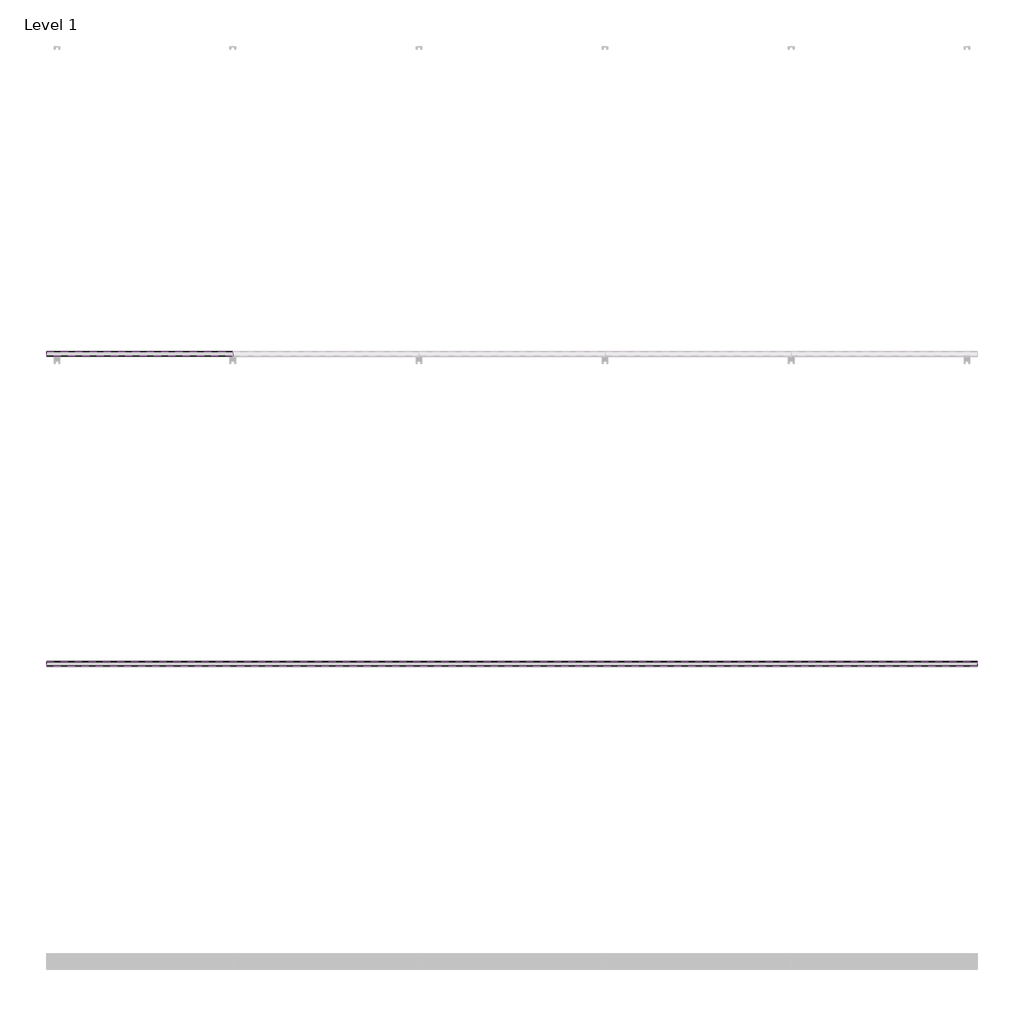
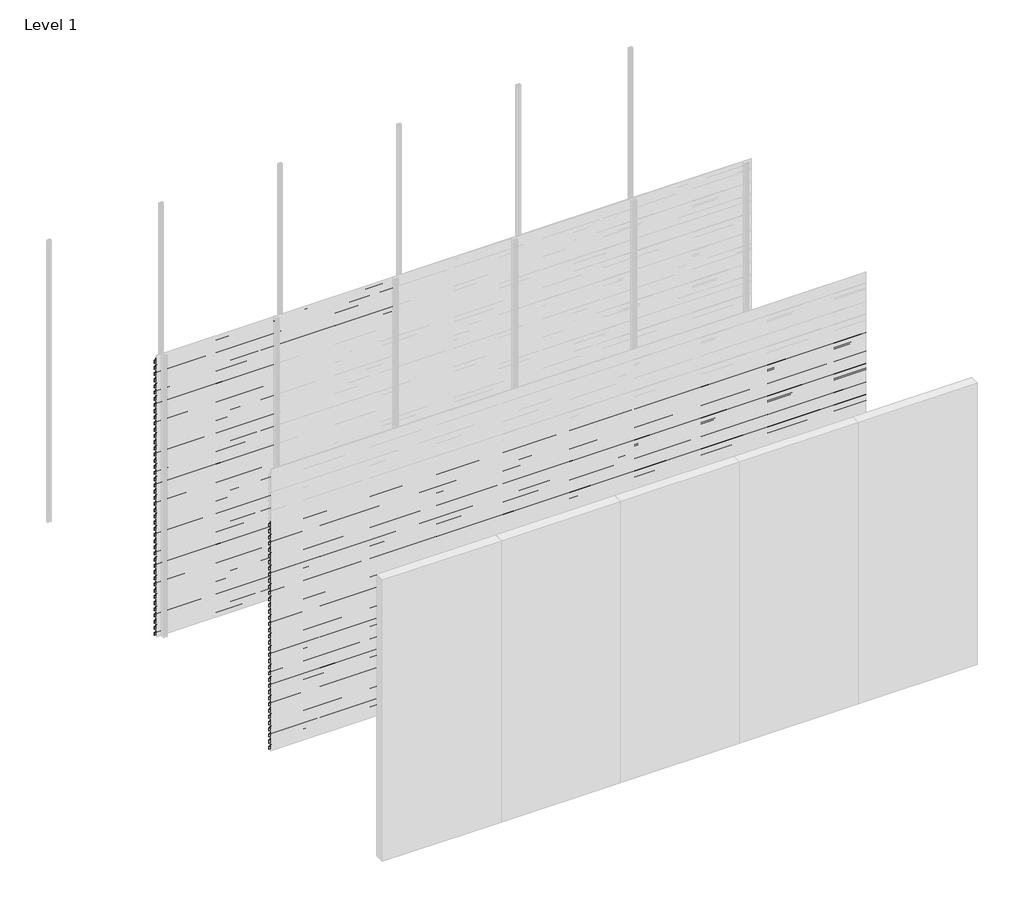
# One storey, part 25 of 33: 88 proxies.
"""IFC4 building model written with IfcOpenShell, lengths in millimetres."""

from ifc_helpers import new_model, si_unit, frame, origin, place, context, project, spatial, polyline, outline, extrude, element, save

model = new_model("IFC4")

# Units and contexts
model_context = context("Model", 3, world=origin())
ifc_project = project(units=[si_unit("LENGTHUNIT", "METRE", prefix="MILLI")], contexts=[model_context])

# Site, building, storey
site = spatial("IfcSite", under=ifc_project)
building = spatial("IfcBuilding", under=site)
storey = spatial("IfcBuildingStorey", under=building, Name="Level 1", Elevation=0.0)

# Proxies
placement = place(None, origin())
element("IfcBuildingElementProxy", 1, Name="Wall Sweeps", at=placement, inside=storey, context=model_context, shape_type="SweptSolid", body=[
    extrude(outline(polyline([(-11967.0, 2930.0), (-11967.0, 2897.0), (-11968.25, 2897.7216933), (-11968.25, 2929.2872415), (-11998.0, 2950.0588647), (-11998.0, 2970.0), (-11996.75, 2970.0), (-11996.75, 2950.7716232), (-11967.0, 2930.0)])), frame((0.0, 0.0, 0.0), z_axis=(1.0, 0.0, 0.0), x_axis=(0.0, 1.0, 0.0)), (0.0, 0.0, 1.0), 1200.0),
])
element("IfcBuildingElementProxy", 2, Name="Wall Sweeps", at=placement, inside=storey, context=model_context, shape_type="SweptSolid", body=[
    extrude(outline(polyline([(-11967.0, 2864.0), (-11967.0, 2831.0), (-11968.25, 2831.7216933), (-11968.25, 2863.2872415), (-11998.0, 2884.0588647), (-11998.0, 2904.0), (-11996.75, 2904.0), (-11996.75, 2884.7716232), (-11967.0, 2864.0)])), frame((0.0, 0.0, 0.0), z_axis=(1.0, 0.0, 0.0), x_axis=(0.0, 1.0, 0.0)), (0.0, 0.0, 1.0), 1200.0),
])
element("IfcBuildingElementProxy", 3, Name="Wall Sweeps", at=placement, inside=storey, context=model_context, shape_type="SweptSolid", body=[
    extrude(outline(polyline([(-11967.0, 2798.0), (-11967.0, 2765.0), (-11968.25, 2765.7216933), (-11968.25, 2797.2872415), (-11998.0, 2818.0588647), (-11998.0, 2838.0), (-11996.75, 2838.0), (-11996.75, 2818.7716232), (-11967.0, 2798.0)])), frame((0.0, 0.0, 0.0), z_axis=(1.0, 0.0, 0.0), x_axis=(0.0, 1.0, 0.0)), (0.0, 0.0, 1.0), 1200.0),
])
element("IfcBuildingElementProxy", 4, Name="Wall Sweeps", at=placement, inside=storey, context=model_context, shape_type="SweptSolid", body=[
    extrude(outline(polyline([(-11967.0, 2732.0), (-11967.0, 2699.0), (-11968.25, 2699.7216933), (-11968.25, 2731.2872415), (-11998.0, 2752.0588647), (-11998.0, 2772.0), (-11996.75, 2772.0), (-11996.75, 2752.7716232), (-11967.0, 2732.0)])), frame((0.0, 0.0, 0.0), z_axis=(1.0, 0.0, 0.0), x_axis=(0.0, 1.0, 0.0)), (0.0, 0.0, 1.0), 1200.0),
])
element("IfcBuildingElementProxy", 5, Name="Wall Sweeps", at=placement, inside=storey, context=model_context, shape_type="SweptSolid", body=[
    extrude(outline(polyline([(-11967.0, 2666.0), (-11967.0, 2633.0), (-11968.25, 2633.7216933), (-11968.25, 2665.2872415), (-11998.0, 2686.0588647), (-11998.0, 2706.0), (-11996.75, 2706.0), (-11996.75, 2686.7716232), (-11967.0, 2666.0)])), frame((0.0, 0.0, 0.0), z_axis=(1.0, 0.0, 0.0), x_axis=(0.0, 1.0, 0.0)), (0.0, 0.0, 1.0), 1200.0),
])
element("IfcBuildingElementProxy", 6, Name="Wall Sweeps", at=placement, inside=storey, context=model_context, shape_type="SweptSolid", body=[
    extrude(outline(polyline([(-11967.0, 2600.0), (-11967.0, 2567.0), (-11968.25, 2567.7216933), (-11968.25, 2599.2872415), (-11998.0, 2620.0588647), (-11998.0, 2640.0), (-11996.75, 2640.0), (-11996.75, 2620.7716232), (-11967.0, 2600.0)])), frame((0.0, 0.0, 0.0), z_axis=(1.0, 0.0, 0.0), x_axis=(0.0, 1.0, 0.0)), (0.0, 0.0, 1.0), 1200.0),
])
element("IfcBuildingElementProxy", 7, Name="Wall Sweeps", at=placement, inside=storey, context=model_context, shape_type="SweptSolid", body=[
    extrude(outline(polyline([(-11967.0, 2534.0), (-11967.0, 2501.0), (-11968.25, 2501.7216933), (-11968.25, 2533.2872415), (-11998.0, 2554.0588647), (-11998.0, 2574.0), (-11996.75, 2574.0), (-11996.75, 2554.7716232), (-11967.0, 2534.0)])), frame((0.0, 0.0, 0.0), z_axis=(1.0, 0.0, 0.0), x_axis=(0.0, 1.0, 0.0)), (0.0, 0.0, 1.0), 1200.0),
])
element("IfcBuildingElementProxy", 8, Name="Wall Sweeps", at=placement, inside=storey, context=model_context, shape_type="SweptSolid", body=[
    extrude(outline(polyline([(-11967.0, 2468.0), (-11967.0, 2435.0), (-11968.25, 2435.7216933), (-11968.25, 2467.2872415), (-11998.0, 2488.0588647), (-11998.0, 2508.0), (-11996.75, 2508.0), (-11996.75, 2488.7716232), (-11967.0, 2468.0)])), frame((0.0, 0.0, 0.0), z_axis=(1.0, 0.0, 0.0), x_axis=(0.0, 1.0, 0.0)), (0.0, 0.0, 1.0), 1200.0),
])
element("IfcBuildingElementProxy", 9, Name="Wall Sweeps", at=placement, inside=storey, context=model_context, shape_type="SweptSolid", body=[
    extrude(outline(polyline([(-11967.0, 2402.0), (-11967.0, 2369.0), (-11968.25, 2369.7216933), (-11968.25, 2401.2872415), (-11998.0, 2422.0588647), (-11998.0, 2442.0), (-11996.75, 2442.0), (-11996.75, 2422.7716232), (-11967.0, 2402.0)])), frame((0.0, 0.0, 0.0), z_axis=(1.0, 0.0, 0.0), x_axis=(0.0, 1.0, 0.0)), (0.0, 0.0, 1.0), 1200.0),
])
element("IfcBuildingElementProxy", 10, Name="Wall Sweeps", at=placement, inside=storey, context=model_context, shape_type="SweptSolid", body=[
    extrude(outline(polyline([(-11967.0, 2336.0), (-11967.0, 2303.0), (-11968.25, 2303.7216933), (-11968.25, 2335.2872415), (-11998.0, 2356.0588647), (-11998.0, 2376.0), (-11996.75, 2376.0), (-11996.75, 2356.7716232), (-11967.0, 2336.0)])), frame((0.0, 0.0, 0.0), z_axis=(1.0, 0.0, 0.0), x_axis=(0.0, 1.0, 0.0)), (0.0, 0.0, 1.0), 1200.0),
])
element("IfcBuildingElementProxy", 11, Name="Wall Sweeps", at=placement, inside=storey, context=model_context, shape_type="SweptSolid", body=[
    extrude(outline(polyline([(-11967.0, 2270.0), (-11967.0, 2237.0), (-11968.25, 2237.7216933), (-11968.25, 2269.2872415), (-11998.0, 2290.0588647), (-11998.0, 2310.0), (-11996.75, 2310.0), (-11996.75, 2290.7716232), (-11967.0, 2270.0)])), frame((0.0, 0.0, 0.0), z_axis=(1.0, 0.0, 0.0), x_axis=(0.0, 1.0, 0.0)), (0.0, 0.0, 1.0), 1200.0),
])
element("IfcBuildingElementProxy", 12, Name="Wall Sweeps", at=placement, inside=storey, context=model_context, shape_type="SweptSolid", body=[
    extrude(outline(polyline([(-11967.0, 2204.0), (-11967.0, 2171.0), (-11968.25, 2171.7216933), (-11968.25, 2203.2872415), (-11998.0, 2224.0588647), (-11998.0, 2244.0), (-11996.75, 2244.0), (-11996.75, 2224.7716232), (-11967.0, 2204.0)])), frame((0.0, 0.0, 0.0), z_axis=(1.0, 0.0, 0.0), x_axis=(0.0, 1.0, 0.0)), (0.0, 0.0, 1.0), 1200.0),
])
element("IfcBuildingElementProxy", 13, Name="Wall Sweeps", at=placement, inside=storey, context=model_context, shape_type="SweptSolid", body=[
    extrude(outline(polyline([(-11967.0, 2138.0), (-11967.0, 2105.0), (-11968.25, 2105.7216933), (-11968.25, 2137.2872415), (-11998.0, 2158.0588647), (-11998.0, 2178.0), (-11996.75, 2178.0), (-11996.75, 2158.7716232), (-11967.0, 2138.0)])), frame((0.0, 0.0, 0.0), z_axis=(1.0, 0.0, 0.0), x_axis=(0.0, 1.0, 0.0)), (0.0, 0.0, 1.0), 1200.0),
])
element("IfcBuildingElementProxy", 14, Name="Wall Sweeps", at=placement, inside=storey, context=model_context, shape_type="SweptSolid", body=[
    extrude(outline(polyline([(-11967.0, 2072.0), (-11967.0, 2039.0), (-11968.25, 2039.7216933), (-11968.25, 2071.2872415), (-11998.0, 2092.0588647), (-11998.0, 2112.0), (-11996.75, 2112.0), (-11996.75, 2092.7716232), (-11967.0, 2072.0)])), frame((0.0, 0.0, 0.0), z_axis=(1.0, 0.0, 0.0), x_axis=(0.0, 1.0, 0.0)), (0.0, 0.0, 1.0), 1200.0),
])
element("IfcBuildingElementProxy", 15, Name="Wall Sweeps", at=placement, inside=storey, context=model_context, shape_type="SweptSolid", body=[
    extrude(outline(polyline([(-11967.0, 2006.0), (-11967.0, 1973.0), (-11968.25, 1973.7216933), (-11968.25, 2005.2872415), (-11998.0, 2026.0588647), (-11998.0, 2046.0), (-11996.75, 2046.0), (-11996.75, 2026.7716232), (-11967.0, 2006.0)])), frame((0.0, 0.0, 0.0), z_axis=(1.0, 0.0, 0.0), x_axis=(0.0, 1.0, 0.0)), (0.0, 0.0, 1.0), 1200.0),
])
element("IfcBuildingElementProxy", 16, Name="Wall Sweeps", at=placement, inside=storey, context=model_context, shape_type="SweptSolid", body=[
    extrude(outline(polyline([(-11967.0, 1940.0), (-11967.0, 1907.0), (-11968.25, 1907.7216933), (-11968.25, 1939.2872415), (-11998.0, 1960.0588647), (-11998.0, 1980.0), (-11996.75, 1980.0), (-11996.75, 1960.7716232), (-11967.0, 1940.0)])), frame((0.0, 0.0, 0.0), z_axis=(1.0, 0.0, 0.0), x_axis=(0.0, 1.0, 0.0)), (0.0, 0.0, 1.0), 1200.0),
])
element("IfcBuildingElementProxy", 17, Name="Wall Sweeps", at=placement, inside=storey, context=model_context, shape_type="SweptSolid", body=[
    extrude(outline(polyline([(-11967.0, 1874.0), (-11967.0, 1841.0), (-11968.25, 1841.7216933), (-11968.25, 1873.2872415), (-11998.0, 1894.0588647), (-11998.0, 1914.0), (-11996.75, 1914.0), (-11996.75, 1894.7716232), (-11967.0, 1874.0)])), frame((0.0, 0.0, 0.0), z_axis=(1.0, 0.0, 0.0), x_axis=(0.0, 1.0, 0.0)), (0.0, 0.0, 1.0), 1200.0),
])
element("IfcBuildingElementProxy", 18, Name="Wall Sweeps", at=placement, inside=storey, context=model_context, shape_type="SweptSolid", body=[
    extrude(outline(polyline([(-11967.0, 1808.0), (-11967.0, 1775.0), (-11968.25, 1775.7216933), (-11968.25, 1807.2872415), (-11998.0, 1828.0588647), (-11998.0, 1848.0), (-11996.75, 1848.0), (-11996.75, 1828.7716232), (-11967.0, 1808.0)])), frame((0.0, 0.0, 0.0), z_axis=(1.0, 0.0, 0.0), x_axis=(0.0, 1.0, 0.0)), (0.0, 0.0, 1.0), 1200.0),
])
element("IfcBuildingElementProxy", 19, Name="Wall Sweeps", at=placement, inside=storey, context=model_context, shape_type="SweptSolid", body=[
    extrude(outline(polyline([(-11967.0, 1742.0), (-11967.0, 1709.0), (-11968.25, 1709.7216933), (-11968.25, 1741.2872415), (-11998.0, 1762.0588647), (-11998.0, 1782.0), (-11996.75, 1782.0), (-11996.75, 1762.7716232), (-11967.0, 1742.0)])), frame((0.0, 0.0, 0.0), z_axis=(1.0, 0.0, 0.0), x_axis=(0.0, 1.0, 0.0)), (0.0, 0.0, 1.0), 1200.0),
])
element("IfcBuildingElementProxy", 20, Name="Wall Sweeps", at=placement, inside=storey, context=model_context, shape_type="SweptSolid", body=[
    extrude(outline(polyline([(-11967.0, 1676.0), (-11967.0, 1643.0), (-11968.25, 1643.7216933), (-11968.25, 1675.2872415), (-11998.0, 1696.0588647), (-11998.0, 1716.0), (-11996.75, 1716.0), (-11996.75, 1696.7716232), (-11967.0, 1676.0)])), frame((0.0, 0.0, 0.0), z_axis=(1.0, 0.0, 0.0), x_axis=(0.0, 1.0, 0.0)), (0.0, 0.0, 1.0), 1200.0),
])
element("IfcBuildingElementProxy", 21, Name="Wall Sweeps", at=placement, inside=storey, context=model_context, shape_type="SweptSolid", body=[
    extrude(outline(polyline([(-11967.0, 1610.0), (-11967.0, 1577.0), (-11968.25, 1577.7216933), (-11968.25, 1609.2872415), (-11998.0, 1630.0588647), (-11998.0, 1650.0), (-11996.75, 1650.0), (-11996.75, 1630.7716232), (-11967.0, 1610.0)])), frame((0.0, 0.0, 0.0), z_axis=(1.0, 0.0, 0.0), x_axis=(0.0, 1.0, 0.0)), (0.0, 0.0, 1.0), 1200.0),
])
element("IfcBuildingElementProxy", 22, Name="Wall Sweeps", at=placement, inside=storey, context=model_context, shape_type="SweptSolid", body=[
    extrude(outline(polyline([(-11967.0, 1544.0), (-11967.0, 1511.0), (-11968.25, 1511.7216933), (-11968.25, 1543.2872415), (-11998.0, 1564.0588647), (-11998.0, 1584.0), (-11996.75, 1584.0), (-11996.75, 1564.7716232), (-11967.0, 1544.0)])), frame((0.0, 0.0, 0.0), z_axis=(1.0, 0.0, 0.0), x_axis=(0.0, 1.0, 0.0)), (0.0, 0.0, 1.0), 1200.0),
])
element("IfcBuildingElementProxy", 23, Name="Wall Sweeps", at=placement, inside=storey, context=model_context, shape_type="SweptSolid", body=[
    extrude(outline(polyline([(-11967.0, 1478.0), (-11967.0, 1445.0), (-11968.25, 1445.7216933), (-11968.25, 1477.2872415), (-11998.0, 1498.0588647), (-11998.0, 1518.0), (-11996.75, 1518.0), (-11996.75, 1498.7716232), (-11967.0, 1478.0)])), frame((0.0, 0.0, 0.0), z_axis=(1.0, 0.0, 0.0), x_axis=(0.0, 1.0, 0.0)), (0.0, 0.0, 1.0), 1200.0),
])
element("IfcBuildingElementProxy", 24, Name="Wall Sweeps", at=placement, inside=storey, context=model_context, shape_type="SweptSolid", body=[
    extrude(outline(polyline([(-11967.0, 1412.0), (-11967.0, 1379.0), (-11968.25, 1379.7216933), (-11968.25, 1411.2872415), (-11998.0, 1432.0588647), (-11998.0, 1452.0), (-11996.75, 1452.0), (-11996.75, 1432.7716232), (-11967.0, 1412.0)])), frame((0.0, 0.0, 0.0), z_axis=(1.0, 0.0, 0.0), x_axis=(0.0, 1.0, 0.0)), (0.0, 0.0, 1.0), 1200.0),
])
element("IfcBuildingElementProxy", 25, Name="Wall Sweeps", at=placement, inside=storey, context=model_context, shape_type="SweptSolid", body=[
    extrude(outline(polyline([(-11967.0, 1346.0), (-11967.0, 1313.0), (-11968.25, 1313.7216933), (-11968.25, 1345.2872415), (-11998.0, 1366.0588647), (-11998.0, 1386.0), (-11996.75, 1386.0), (-11996.75, 1366.7716232), (-11967.0, 1346.0)])), frame((0.0, 0.0, 0.0), z_axis=(1.0, 0.0, 0.0), x_axis=(0.0, 1.0, 0.0)), (0.0, 0.0, 1.0), 1200.0),
])
element("IfcBuildingElementProxy", 26, Name="Wall Sweeps", at=placement, inside=storey, context=model_context, shape_type="SweptSolid", body=[
    extrude(outline(polyline([(-11967.0, 1280.0), (-11967.0, 1247.0), (-11968.25, 1247.7216933), (-11968.25, 1279.2872415), (-11998.0, 1300.0588647), (-11998.0, 1320.0), (-11996.75, 1320.0), (-11996.75, 1300.7716232), (-11967.0, 1280.0)])), frame((0.0, 0.0, 0.0), z_axis=(1.0, 0.0, 0.0), x_axis=(0.0, 1.0, 0.0)), (0.0, 0.0, 1.0), 1200.0),
])
element("IfcBuildingElementProxy", 27, Name="Wall Sweeps", at=placement, inside=storey, context=model_context, shape_type="SweptSolid", body=[
    extrude(outline(polyline([(-11967.0, 1214.0), (-11967.0, 1181.0), (-11968.25, 1181.7216933), (-11968.25, 1213.2872415), (-11998.0, 1234.0588647), (-11998.0, 1254.0), (-11996.75, 1254.0), (-11996.75, 1234.7716232), (-11967.0, 1214.0)])), frame((0.0, 0.0, 0.0), z_axis=(1.0, 0.0, 0.0), x_axis=(0.0, 1.0, 0.0)), (0.0, 0.0, 1.0), 1200.0),
])
element("IfcBuildingElementProxy", 28, Name="Wall Sweeps", at=placement, inside=storey, context=model_context, shape_type="SweptSolid", body=[
    extrude(outline(polyline([(-11967.0, 1148.0), (-11967.0, 1115.0), (-11968.25, 1115.7216933), (-11968.25, 1147.2872415), (-11998.0, 1168.0588647), (-11998.0, 1188.0), (-11996.75, 1188.0), (-11996.75, 1168.7716232), (-11967.0, 1148.0)])), frame((0.0, 0.0, 0.0), z_axis=(1.0, 0.0, 0.0), x_axis=(0.0, 1.0, 0.0)), (0.0, 0.0, 1.0), 1200.0),
])
element("IfcBuildingElementProxy", 29, Name="Wall Sweeps", at=placement, inside=storey, context=model_context, shape_type="SweptSolid", body=[
    extrude(outline(polyline([(-11967.0, 1082.0), (-11967.0, 1049.0), (-11968.25, 1049.7216933), (-11968.25, 1081.2872415), (-11998.0, 1102.0588647), (-11998.0, 1122.0), (-11996.75, 1122.0), (-11996.75, 1102.7716232), (-11967.0, 1082.0)])), frame((0.0, 0.0, 0.0), z_axis=(1.0, 0.0, 0.0), x_axis=(0.0, 1.0, 0.0)), (0.0, 0.0, 1.0), 1200.0),
])
element("IfcBuildingElementProxy", 30, Name="Wall Sweeps", at=placement, inside=storey, context=model_context, shape_type="SweptSolid", body=[
    extrude(outline(polyline([(-11967.0, 1016.0), (-11967.0, 983.0), (-11968.25, 983.7216933), (-11968.25, 1015.2872415), (-11998.0, 1036.0588647), (-11998.0, 1056.0), (-11996.75, 1056.0), (-11996.75, 1036.7716232), (-11967.0, 1016.0)])), frame((0.0, 0.0, 0.0), z_axis=(1.0, 0.0, 0.0), x_axis=(0.0, 1.0, 0.0)), (0.0, 0.0, 1.0), 1200.0),
])
element("IfcBuildingElementProxy", 31, Name="Wall Sweeps", at=placement, inside=storey, context=model_context, shape_type="SweptSolid", body=[
    extrude(outline(polyline([(-11967.0, 950.0), (-11967.0, 917.0), (-11968.25, 917.7216933), (-11968.25, 949.2872415), (-11998.0, 970.0588647), (-11998.0, 990.0), (-11996.75, 990.0), (-11996.75, 970.7716232), (-11967.0, 950.0)])), frame((0.0, 0.0, 0.0), z_axis=(1.0, 0.0, 0.0), x_axis=(0.0, 1.0, 0.0)), (0.0, 0.0, 1.0), 1200.0),
])
element("IfcBuildingElementProxy", 32, Name="Wall Sweeps", at=placement, inside=storey, context=model_context, shape_type="SweptSolid", body=[
    extrude(outline(polyline([(-11967.0, 884.0), (-11967.0, 851.0), (-11968.25, 851.7216933), (-11968.25, 883.2872415), (-11998.0, 904.0588647), (-11998.0, 924.0), (-11996.75, 924.0), (-11996.75, 904.7716232), (-11967.0, 884.0)])), frame((0.0, 0.0, 0.0), z_axis=(1.0, 0.0, 0.0), x_axis=(0.0, 1.0, 0.0)), (0.0, 0.0, 1.0), 1200.0),
])
element("IfcBuildingElementProxy", 33, Name="Wall Sweeps", at=placement, inside=storey, context=model_context, shape_type="SweptSolid", body=[
    extrude(outline(polyline([(-11967.0, 818.0), (-11967.0, 785.0), (-11968.25, 785.7216933), (-11968.25, 817.2872415), (-11998.0, 838.0588647), (-11998.0, 858.0), (-11996.75, 858.0), (-11996.75, 838.7716232), (-11967.0, 818.0)])), frame((0.0, 0.0, 0.0), z_axis=(1.0, 0.0, 0.0), x_axis=(0.0, 1.0, 0.0)), (0.0, 0.0, 1.0), 1200.0),
])
element("IfcBuildingElementProxy", 34, Name="Wall Sweeps", at=placement, inside=storey, context=model_context, shape_type="SweptSolid", body=[
    extrude(outline(polyline([(-11967.0, 752.0), (-11967.0, 719.0), (-11968.25, 719.7216933), (-11968.25, 751.2872415), (-11998.0, 772.0588647), (-11998.0, 792.0), (-11996.75, 792.0), (-11996.75, 772.7716232), (-11967.0, 752.0)])), frame((0.0, 0.0, 0.0), z_axis=(1.0, 0.0, 0.0), x_axis=(0.0, 1.0, 0.0)), (0.0, 0.0, 1.0), 1200.0),
])
element("IfcBuildingElementProxy", 35, Name="Wall Sweeps", at=placement, inside=storey, context=model_context, shape_type="SweptSolid", body=[
    extrude(outline(polyline([(-11967.0, 686.0), (-11967.0, 653.0), (-11968.25, 653.7216933), (-11968.25, 685.2872415), (-11998.0, 706.0588647), (-11998.0, 726.0), (-11996.75, 726.0), (-11996.75, 706.7716232), (-11967.0, 686.0)])), frame((0.0, 0.0, 0.0), z_axis=(1.0, 0.0, 0.0), x_axis=(0.0, 1.0, 0.0)), (0.0, 0.0, 1.0), 1200.0),
])
element("IfcBuildingElementProxy", 36, Name="Wall Sweeps", at=placement, inside=storey, context=model_context, shape_type="SweptSolid", body=[
    extrude(outline(polyline([(-11967.0, 620.0), (-11967.0, 587.0), (-11968.25, 587.7216933), (-11968.25, 619.2872415), (-11998.0, 640.0588647), (-11998.0, 660.0), (-11996.75, 660.0), (-11996.75, 640.7716232), (-11967.0, 620.0)])), frame((0.0, 0.0, 0.0), z_axis=(1.0, 0.0, 0.0), x_axis=(0.0, 1.0, 0.0)), (0.0, 0.0, 1.0), 1200.0),
])
element("IfcBuildingElementProxy", 37, Name="Wall Sweeps", at=placement, inside=storey, context=model_context, shape_type="SweptSolid", body=[
    extrude(outline(polyline([(-11967.0, 554.0), (-11967.0, 521.0), (-11968.25, 521.7216933), (-11968.25, 553.2872415), (-11998.0, 574.0588647), (-11998.0, 594.0), (-11996.75, 594.0), (-11996.75, 574.7716232), (-11967.0, 554.0)])), frame((0.0, 0.0, 0.0), z_axis=(1.0, 0.0, 0.0), x_axis=(0.0, 1.0, 0.0)), (0.0, 0.0, 1.0), 1200.0),
])
element("IfcBuildingElementProxy", 38, Name="Wall Sweeps", at=placement, inside=storey, context=model_context, shape_type="SweptSolid", body=[
    extrude(outline(polyline([(-11967.0, 488.0), (-11967.0, 455.0), (-11968.25, 455.7216933), (-11968.25, 487.2872415), (-11998.0, 508.0588647), (-11998.0, 528.0), (-11996.75, 528.0), (-11996.75, 508.7716232), (-11967.0, 488.0)])), frame((0.0, 0.0, 0.0), z_axis=(1.0, 0.0, 0.0), x_axis=(0.0, 1.0, 0.0)), (0.0, 0.0, 1.0), 1200.0),
])
element("IfcBuildingElementProxy", 39, Name="Wall Sweeps", at=placement, inside=storey, context=model_context, shape_type="SweptSolid", body=[
    extrude(outline(polyline([(-11967.0, 422.0), (-11967.0, 389.0), (-11968.25, 389.7216933), (-11968.25, 421.2872415), (-11998.0, 442.0588647), (-11998.0, 462.0), (-11996.75, 462.0), (-11996.75, 442.7716232), (-11967.0, 422.0)])), frame((0.0, 0.0, 0.0), z_axis=(1.0, 0.0, 0.0), x_axis=(0.0, 1.0, 0.0)), (0.0, 0.0, 1.0), 1200.0),
])
element("IfcBuildingElementProxy", 40, Name="Wall Sweeps", at=placement, inside=storey, context=model_context, shape_type="SweptSolid", body=[
    extrude(outline(polyline([(-11967.0, 356.0), (-11967.0, 323.0), (-11968.25, 323.7216933), (-11968.25, 355.2872415), (-11998.0, 376.0588647), (-11998.0, 396.0), (-11996.75, 396.0), (-11996.75, 376.7716232), (-11967.0, 356.0)])), frame((0.0, 0.0, 0.0), z_axis=(1.0, 0.0, 0.0), x_axis=(0.0, 1.0, 0.0)), (0.0, 0.0, 1.0), 1200.0),
])
element("IfcBuildingElementProxy", 41, Name="Wall Sweeps", at=placement, inside=storey, context=model_context, shape_type="SweptSolid", body=[
    extrude(outline(polyline([(-11967.0, 290.0), (-11967.0, 257.0), (-11968.25, 257.7216933), (-11968.25, 289.2872415), (-11998.0, 310.0588647), (-11998.0, 330.0), (-11996.75, 330.0), (-11996.75, 310.7716232), (-11967.0, 290.0)])), frame((0.0, 0.0, 0.0), z_axis=(1.0, 0.0, 0.0), x_axis=(0.0, 1.0, 0.0)), (0.0, 0.0, 1.0), 1200.0),
])
element("IfcBuildingElementProxy", 42, Name="Wall Sweeps", at=placement, inside=storey, context=model_context, shape_type="SweptSolid", body=[
    extrude(outline(polyline([(-11967.0, 224.0), (-11967.0, 191.0), (-11968.25, 191.7216933), (-11968.25, 223.2872415), (-11998.0, 244.0588647), (-11998.0, 264.0), (-11996.75, 264.0), (-11996.75, 244.7716232), (-11967.0, 224.0)])), frame((0.0, 0.0, 0.0), z_axis=(1.0, 0.0, 0.0), x_axis=(0.0, 1.0, 0.0)), (0.0, 0.0, 1.0), 1200.0),
])
element("IfcBuildingElementProxy", 43, Name="Wall Sweeps", at=placement, inside=storey, context=model_context, shape_type="SweptSolid", body=[
    extrude(outline(polyline([(-11967.0, 158.0), (-11967.0, 125.0), (-11968.25, 125.7216933), (-11968.25, 157.2872415), (-11998.0, 178.0588647), (-11998.0, 198.0), (-11996.75, 198.0), (-11996.75, 178.7716232), (-11967.0, 158.0)])), frame((0.0, 0.0, 0.0), z_axis=(1.0, 0.0, 0.0), x_axis=(0.0, 1.0, 0.0)), (0.0, 0.0, 1.0), 1200.0),
])
element("IfcBuildingElementProxy", 44, Name="Wall Sweeps", at=placement, inside=storey, context=model_context, shape_type="SweptSolid", body=[
    extrude(outline(polyline([(-11967.0, 92.0), (-11967.0, 59.0), (-11968.25, 59.7216933), (-11968.25, 91.2872415), (-11998.0, 112.0588647), (-11998.0, 132.0), (-11996.75, 132.0), (-11996.75, 112.7716232), (-11967.0, 92.0)])), frame((0.0, 0.0, 0.0), z_axis=(1.0, 0.0, 0.0), x_axis=(0.0, 1.0, 0.0)), (0.0, 0.0, 1.0), 1200.0),
])
element("IfcBuildingElementProxy", 45, Name="Wall Sweeps", at=placement, inside=storey, context=model_context, shape_type="SweptSolid", body=[
    extrude(outline(polyline([(-11967.0, 26.0), (-11967.0, -7.0), (-11968.25, -6.2783067), (-11968.25, 25.2872415), (-11998.0, 46.0588647), (-11998.0, 66.0), (-11996.75, 66.0), (-11996.75, 46.7716232), (-11967.0, 26.0)])), frame((0.0, 0.0, 0.0), z_axis=(1.0, 0.0, 0.0), x_axis=(0.0, 1.0, 0.0)), (0.0, 0.0, 1.0), 1200.0),
])
element("IfcBuildingElementProxy", 46, Name="Wall Sweeps", at=placement, inside=storey, context=model_context, shape_type="SweptSolid", body=[
    extrude(outline(polyline([(-11967.0, 2930.0), (-11967.0, 2897.0), (-11968.25, 2897.7216933), (-11968.25, 2929.2872415), (-11998.0, 2950.0588647), (-11998.0, 2970.0), (-11996.75, 2970.0), (-11996.75, 2950.7716232), (-11967.0, 2930.0)])), frame((1200.0, 0.0, 0.0), z_axis=(1.0, 0.0, 0.0), x_axis=(0.0, 1.0, 0.0)), (0.0, 0.0, 1.0), 1200.0),
])
element("IfcBuildingElementProxy", 47, Name="Wall Sweeps", at=placement, inside=storey, context=model_context, shape_type="SweptSolid", body=[
    extrude(outline(polyline([(-11967.0, 2864.0), (-11967.0, 2831.0), (-11968.25, 2831.7216933), (-11968.25, 2863.2872415), (-11998.0, 2884.0588647), (-11998.0, 2904.0), (-11996.75, 2904.0), (-11996.75, 2884.7716232), (-11967.0, 2864.0)])), frame((1200.0, 0.0, 0.0), z_axis=(1.0, 0.0, 0.0), x_axis=(0.0, 1.0, 0.0)), (0.0, 0.0, 1.0), 1200.0),
])
element("IfcBuildingElementProxy", 48, Name="Wall Sweeps", at=placement, inside=storey, context=model_context, shape_type="SweptSolid", body=[
    extrude(outline(polyline([(-11967.0, 2798.0), (-11967.0, 2765.0), (-11968.25, 2765.7216933), (-11968.25, 2797.2872415), (-11998.0, 2818.0588647), (-11998.0, 2838.0), (-11996.75, 2838.0), (-11996.75, 2818.7716232), (-11967.0, 2798.0)])), frame((1200.0, 0.0, 0.0), z_axis=(1.0, 0.0, 0.0), x_axis=(0.0, 1.0, 0.0)), (0.0, 0.0, 1.0), 1200.0),
])
element("IfcBuildingElementProxy", 49, Name="Wall Sweeps", at=placement, inside=storey, context=model_context, shape_type="SweptSolid", body=[
    extrude(outline(polyline([(-11967.0, 2732.0), (-11967.0, 2699.0), (-11968.25, 2699.7216933), (-11968.25, 2731.2872415), (-11998.0, 2752.0588647), (-11998.0, 2772.0), (-11996.75, 2772.0), (-11996.75, 2752.7716232), (-11967.0, 2732.0)])), frame((1200.0, 0.0, 0.0), z_axis=(1.0, 0.0, 0.0), x_axis=(0.0, 1.0, 0.0)), (0.0, 0.0, 1.0), 1200.0),
])
element("IfcBuildingElementProxy", 50, Name="Wall Sweeps", at=placement, inside=storey, context=model_context, shape_type="SweptSolid", body=[
    extrude(outline(polyline([(-11967.0, 2666.0), (-11967.0, 2633.0), (-11968.25, 2633.7216933), (-11968.25, 2665.2872415), (-11998.0, 2686.0588647), (-11998.0, 2706.0), (-11996.75, 2706.0), (-11996.75, 2686.7716232), (-11967.0, 2666.0)])), frame((1200.0, 0.0, 0.0), z_axis=(1.0, 0.0, 0.0), x_axis=(0.0, 1.0, 0.0)), (0.0, 0.0, 1.0), 1200.0),
])
element("IfcBuildingElementProxy", 51, Name="Wall Sweeps", at=placement, inside=storey, context=model_context, shape_type="SweptSolid", body=[
    extrude(outline(polyline([(-11967.0, 2600.0), (-11967.0, 2567.0), (-11968.25, 2567.7216933), (-11968.25, 2599.2872415), (-11998.0, 2620.0588647), (-11998.0, 2640.0), (-11996.75, 2640.0), (-11996.75, 2620.7716232), (-11967.0, 2600.0)])), frame((1200.0, 0.0, 0.0), z_axis=(1.0, 0.0, 0.0), x_axis=(0.0, 1.0, 0.0)), (0.0, 0.0, 1.0), 1200.0),
])
element("IfcBuildingElementProxy", 52, Name="Wall Sweeps", at=placement, inside=storey, context=model_context, shape_type="SweptSolid", body=[
    extrude(outline(polyline([(-13967.0, 2402.0), (-13967.0, 2369.0), (-13968.25, 2369.7216933), (-13968.25, 2401.2872415), (-13998.0, 2422.0588647), (-13998.0, 2442.0), (-13996.75, 2442.0), (-13996.75, 2422.7716232), (-13967.0, 2402.0)])), frame((0.0, 0.0, 0.0), z_axis=(1.0, 0.0, 0.0), x_axis=(0.0, 1.0, 0.0)), (0.0, 0.0, 1.0), 6000.0),
])
element("IfcBuildingElementProxy", 53, Name="Wall Sweeps", at=placement, inside=storey, context=model_context, shape_type="SweptSolid", body=[
    extrude(outline(polyline([(-13967.0, 2336.0), (-13967.0, 2303.0), (-13968.25, 2303.7216933), (-13968.25, 2335.2872415), (-13998.0, 2356.0588647), (-13998.0, 2376.0), (-13996.75, 2376.0), (-13996.75, 2356.7716232), (-13967.0, 2336.0)])), frame((0.0, 0.0, 0.0), z_axis=(1.0, 0.0, 0.0), x_axis=(0.0, 1.0, 0.0)), (0.0, 0.0, 1.0), 6000.0),
])
element("IfcBuildingElementProxy", 54, Name="Wall Sweeps", at=placement, inside=storey, context=model_context, shape_type="SweptSolid", body=[
    extrude(outline(polyline([(-13967.0, 2270.0), (-13967.0, 2237.0), (-13968.25, 2237.7216933), (-13968.25, 2269.2872415), (-13998.0, 2290.0588647), (-13998.0, 2310.0), (-13996.75, 2310.0), (-13996.75, 2290.7716232), (-13967.0, 2270.0)])), frame((0.0, 0.0, 0.0), z_axis=(1.0, 0.0, 0.0), x_axis=(0.0, 1.0, 0.0)), (0.0, 0.0, 1.0), 6000.0),
])
element("IfcBuildingElementProxy", 55, Name="Wall Sweeps", at=placement, inside=storey, context=model_context, shape_type="SweptSolid", body=[
    extrude(outline(polyline([(-13967.0, 2204.0), (-13967.0, 2171.0), (-13968.25, 2171.7216933), (-13968.25, 2203.2872415), (-13998.0, 2224.0588647), (-13998.0, 2244.0), (-13996.75, 2244.0), (-13996.75, 2224.7716232), (-13967.0, 2204.0)])), frame((0.0, 0.0, 0.0), z_axis=(1.0, 0.0, 0.0), x_axis=(0.0, 1.0, 0.0)), (0.0, 0.0, 1.0), 6000.0),
])
element("IfcBuildingElementProxy", 56, Name="Wall Sweeps", at=placement, inside=storey, context=model_context, shape_type="SweptSolid", body=[
    extrude(outline(polyline([(-13967.0, 2138.0), (-13967.0, 2105.0), (-13968.25, 2105.7216933), (-13968.25, 2137.2872415), (-13998.0, 2158.0588647), (-13998.0, 2178.0), (-13996.75, 2178.0), (-13996.75, 2158.7716232), (-13967.0, 2138.0)])), frame((0.0, 0.0, 0.0), z_axis=(1.0, 0.0, 0.0), x_axis=(0.0, 1.0, 0.0)), (0.0, 0.0, 1.0), 6000.0),
])
element("IfcBuildingElementProxy", 57, Name="Wall Sweeps", at=placement, inside=storey, context=model_context, shape_type="SweptSolid", body=[
    extrude(outline(polyline([(-13967.0, 2072.0), (-13967.0, 2039.0), (-13968.25, 2039.7216933), (-13968.25, 2071.2872415), (-13998.0, 2092.0588647), (-13998.0, 2112.0), (-13996.75, 2112.0), (-13996.75, 2092.7716232), (-13967.0, 2072.0)])), frame((0.0, 0.0, 0.0), z_axis=(1.0, 0.0, 0.0), x_axis=(0.0, 1.0, 0.0)), (0.0, 0.0, 1.0), 6000.0),
])
element("IfcBuildingElementProxy", 58, Name="Wall Sweeps", at=placement, inside=storey, context=model_context, shape_type="SweptSolid", body=[
    extrude(outline(polyline([(-13967.0, 2006.0), (-13967.0, 1973.0), (-13968.25, 1973.7216933), (-13968.25, 2005.2872415), (-13998.0, 2026.0588647), (-13998.0, 2046.0), (-13996.75, 2046.0), (-13996.75, 2026.7716232), (-13967.0, 2006.0)])), frame((0.0, 0.0, 0.0), z_axis=(1.0, 0.0, 0.0), x_axis=(0.0, 1.0, 0.0)), (0.0, 0.0, 1.0), 6000.0),
])
element("IfcBuildingElementProxy", 59, Name="Wall Sweeps", at=placement, inside=storey, context=model_context, shape_type="SweptSolid", body=[
    extrude(outline(polyline([(-13967.0, 1940.0), (-13967.0, 1907.0), (-13968.25, 1907.7216933), (-13968.25, 1939.2872415), (-13998.0, 1960.0588647), (-13998.0, 1980.0), (-13996.75, 1980.0), (-13996.75, 1960.7716232), (-13967.0, 1940.0)])), frame((0.0, 0.0, 0.0), z_axis=(1.0, 0.0, 0.0), x_axis=(0.0, 1.0, 0.0)), (0.0, 0.0, 1.0), 6000.0),
])
element("IfcBuildingElementProxy", 60, Name="Wall Sweeps", at=placement, inside=storey, context=model_context, shape_type="SweptSolid", body=[
    extrude(outline(polyline([(-13967.0, 1874.0), (-13967.0, 1841.0), (-13968.25, 1841.7216933), (-13968.25, 1873.2872415), (-13998.0, 1894.0588647), (-13998.0, 1914.0), (-13996.75, 1914.0), (-13996.75, 1894.7716232), (-13967.0, 1874.0)])), frame((0.0, 0.0, 0.0), z_axis=(1.0, 0.0, 0.0), x_axis=(0.0, 1.0, 0.0)), (0.0, 0.0, 1.0), 6000.0),
])
element("IfcBuildingElementProxy", 61, Name="Wall Sweeps", at=placement, inside=storey, context=model_context, shape_type="SweptSolid", body=[
    extrude(outline(polyline([(-13967.0, 1808.0), (-13967.0, 1775.0), (-13968.25, 1775.7216933), (-13968.25, 1807.2872415), (-13998.0, 1828.0588647), (-13998.0, 1848.0), (-13996.75, 1848.0), (-13996.75, 1828.7716232), (-13967.0, 1808.0)])), frame((0.0, 0.0, 0.0), z_axis=(1.0, 0.0, 0.0), x_axis=(0.0, 1.0, 0.0)), (0.0, 0.0, 1.0), 6000.0),
])
element("IfcBuildingElementProxy", 62, Name="Wall Sweeps", at=placement, inside=storey, context=model_context, shape_type="SweptSolid", body=[
    extrude(outline(polyline([(-13967.0, 1742.0), (-13967.0, 1709.0), (-13968.25, 1709.7216933), (-13968.25, 1741.2872415), (-13998.0, 1762.0588647), (-13998.0, 1782.0), (-13996.75, 1782.0), (-13996.75, 1762.7716232), (-13967.0, 1742.0)])), frame((0.0, 0.0, 0.0), z_axis=(1.0, 0.0, 0.0), x_axis=(0.0, 1.0, 0.0)), (0.0, 0.0, 1.0), 6000.0),
])
element("IfcBuildingElementProxy", 63, Name="Wall Sweeps", at=placement, inside=storey, context=model_context, shape_type="SweptSolid", body=[
    extrude(outline(polyline([(-13967.0, 1676.0), (-13967.0, 1643.0), (-13968.25, 1643.7216933), (-13968.25, 1675.2872415), (-13998.0, 1696.0588647), (-13998.0, 1716.0), (-13996.75, 1716.0), (-13996.75, 1696.7716232), (-13967.0, 1676.0)])), frame((0.0, 0.0, 0.0), z_axis=(1.0, 0.0, 0.0), x_axis=(0.0, 1.0, 0.0)), (0.0, 0.0, 1.0), 6000.0),
])
element("IfcBuildingElementProxy", 64, Name="Wall Sweeps", at=placement, inside=storey, context=model_context, shape_type="SweptSolid", body=[
    extrude(outline(polyline([(-13967.0, 1610.0), (-13967.0, 1577.0), (-13968.25, 1577.7216933), (-13968.25, 1609.2872415), (-13998.0, 1630.0588647), (-13998.0, 1650.0), (-13996.75, 1650.0), (-13996.75, 1630.7716232), (-13967.0, 1610.0)])), frame((0.0, 0.0, 0.0), z_axis=(1.0, 0.0, 0.0), x_axis=(0.0, 1.0, 0.0)), (0.0, 0.0, 1.0), 6000.0),
])
element("IfcBuildingElementProxy", 65, Name="Wall Sweeps", at=placement, inside=storey, context=model_context, shape_type="SweptSolid", body=[
    extrude(outline(polyline([(-13967.0, 1544.0), (-13967.0, 1511.0), (-13968.25, 1511.7216933), (-13968.25, 1543.2872415), (-13998.0, 1564.0588647), (-13998.0, 1584.0), (-13996.75, 1584.0), (-13996.75, 1564.7716232), (-13967.0, 1544.0)])), frame((0.0, 0.0, 0.0), z_axis=(1.0, 0.0, 0.0), x_axis=(0.0, 1.0, 0.0)), (0.0, 0.0, 1.0), 6000.0),
])
element("IfcBuildingElementProxy", 66, Name="Wall Sweeps", at=placement, inside=storey, context=model_context, shape_type="SweptSolid", body=[
    extrude(outline(polyline([(-13967.0, 1478.0), (-13967.0, 1445.0), (-13968.25, 1445.7216933), (-13968.25, 1477.2872415), (-13998.0, 1498.0588647), (-13998.0, 1518.0), (-13996.75, 1518.0), (-13996.75, 1498.7716232), (-13967.0, 1478.0)])), frame((0.0, 0.0, 0.0), z_axis=(1.0, 0.0, 0.0), x_axis=(0.0, 1.0, 0.0)), (0.0, 0.0, 1.0), 6000.0),
])
element("IfcBuildingElementProxy", 67, Name="Wall Sweeps", at=placement, inside=storey, context=model_context, shape_type="SweptSolid", body=[
    extrude(outline(polyline([(-13967.0, 1412.0), (-13967.0, 1379.0), (-13968.25, 1379.7216933), (-13968.25, 1411.2872415), (-13998.0, 1432.0588647), (-13998.0, 1452.0), (-13996.75, 1452.0), (-13996.75, 1432.7716232), (-13967.0, 1412.0)])), frame((0.0, 0.0, 0.0), z_axis=(1.0, 0.0, 0.0), x_axis=(0.0, 1.0, 0.0)), (0.0, 0.0, 1.0), 6000.0),
])
element("IfcBuildingElementProxy", 68, Name="Wall Sweeps", at=placement, inside=storey, context=model_context, shape_type="SweptSolid", body=[
    extrude(outline(polyline([(-13967.0, 1346.0), (-13967.0, 1313.0), (-13968.25, 1313.7216933), (-13968.25, 1345.2872415), (-13998.0, 1366.0588647), (-13998.0, 1386.0), (-13996.75, 1386.0), (-13996.75, 1366.7716232), (-13967.0, 1346.0)])), frame((0.0, 0.0, 0.0), z_axis=(1.0, 0.0, 0.0), x_axis=(0.0, 1.0, 0.0)), (0.0, 0.0, 1.0), 6000.0),
])
element("IfcBuildingElementProxy", 69, Name="Wall Sweeps", at=placement, inside=storey, context=model_context, shape_type="SweptSolid", body=[
    extrude(outline(polyline([(-13967.0, 1280.0), (-13967.0, 1247.0), (-13968.25, 1247.7216933), (-13968.25, 1279.2872415), (-13998.0, 1300.0588647), (-13998.0, 1320.0), (-13996.75, 1320.0), (-13996.75, 1300.7716232), (-13967.0, 1280.0)])), frame((0.0, 0.0, 0.0), z_axis=(1.0, 0.0, 0.0), x_axis=(0.0, 1.0, 0.0)), (0.0, 0.0, 1.0), 6000.0),
])
element("IfcBuildingElementProxy", 70, Name="Wall Sweeps", at=placement, inside=storey, context=model_context, shape_type="SweptSolid", body=[
    extrude(outline(polyline([(-13967.0, 1214.0), (-13967.0, 1181.0), (-13968.25, 1181.7216933), (-13968.25, 1213.2872415), (-13998.0, 1234.0588647), (-13998.0, 1254.0), (-13996.75, 1254.0), (-13996.75, 1234.7716232), (-13967.0, 1214.0)])), frame((0.0, 0.0, 0.0), z_axis=(1.0, 0.0, 0.0), x_axis=(0.0, 1.0, 0.0)), (0.0, 0.0, 1.0), 6000.0),
])
element("IfcBuildingElementProxy", 71, Name="Wall Sweeps", at=placement, inside=storey, context=model_context, shape_type="SweptSolid", body=[
    extrude(outline(polyline([(-13967.0, 1148.0), (-13967.0, 1115.0), (-13968.25, 1115.7216933), (-13968.25, 1147.2872415), (-13998.0, 1168.0588647), (-13998.0, 1188.0), (-13996.75, 1188.0), (-13996.75, 1168.7716232), (-13967.0, 1148.0)])), frame((0.0, 0.0, 0.0), z_axis=(1.0, 0.0, 0.0), x_axis=(0.0, 1.0, 0.0)), (0.0, 0.0, 1.0), 6000.0),
])
element("IfcBuildingElementProxy", 72, Name="Wall Sweeps", at=placement, inside=storey, context=model_context, shape_type="SweptSolid", body=[
    extrude(outline(polyline([(-13967.0, 1082.0), (-13967.0, 1049.0), (-13968.25, 1049.7216933), (-13968.25, 1081.2872415), (-13998.0, 1102.0588647), (-13998.0, 1122.0), (-13996.75, 1122.0), (-13996.75, 1102.7716232), (-13967.0, 1082.0)])), frame((0.0, 0.0, 0.0), z_axis=(1.0, 0.0, 0.0), x_axis=(0.0, 1.0, 0.0)), (0.0, 0.0, 1.0), 6000.0),
])
element("IfcBuildingElementProxy", 73, Name="Wall Sweeps", at=placement, inside=storey, context=model_context, shape_type="SweptSolid", body=[
    extrude(outline(polyline([(-13967.0, 1016.0), (-13967.0, 983.0), (-13968.25, 983.7216933), (-13968.25, 1015.2872415), (-13998.0, 1036.0588647), (-13998.0, 1056.0), (-13996.75, 1056.0), (-13996.75, 1036.7716232), (-13967.0, 1016.0)])), frame((0.0, 0.0, 0.0), z_axis=(1.0, 0.0, 0.0), x_axis=(0.0, 1.0, 0.0)), (0.0, 0.0, 1.0), 6000.0),
])
element("IfcBuildingElementProxy", 74, Name="Wall Sweeps", at=placement, inside=storey, context=model_context, shape_type="SweptSolid", body=[
    extrude(outline(polyline([(-13967.0, 950.0), (-13967.0, 917.0), (-13968.25, 917.7216933), (-13968.25, 949.2872415), (-13998.0, 970.0588647), (-13998.0, 990.0), (-13996.75, 990.0), (-13996.75, 970.7716232), (-13967.0, 950.0)])), frame((0.0, 0.0, 0.0), z_axis=(1.0, 0.0, 0.0), x_axis=(0.0, 1.0, 0.0)), (0.0, 0.0, 1.0), 6000.0),
])
element("IfcBuildingElementProxy", 75, Name="Wall Sweeps", at=placement, inside=storey, context=model_context, shape_type="SweptSolid", body=[
    extrude(outline(polyline([(-13967.0, 884.0), (-13967.0, 851.0), (-13968.25, 851.7216933), (-13968.25, 883.2872415), (-13998.0, 904.0588647), (-13998.0, 924.0), (-13996.75, 924.0), (-13996.75, 904.7716232), (-13967.0, 884.0)])), frame((0.0, 0.0, 0.0), z_axis=(1.0, 0.0, 0.0), x_axis=(0.0, 1.0, 0.0)), (0.0, 0.0, 1.0), 6000.0),
])
element("IfcBuildingElementProxy", 76, Name="Wall Sweeps", at=placement, inside=storey, context=model_context, shape_type="SweptSolid", body=[
    extrude(outline(polyline([(-13967.0, 818.0), (-13967.0, 785.0), (-13968.25, 785.7216933), (-13968.25, 817.2872415), (-13998.0, 838.0588647), (-13998.0, 858.0), (-13996.75, 858.0), (-13996.75, 838.7716232), (-13967.0, 818.0)])), frame((0.0, 0.0, 0.0), z_axis=(1.0, 0.0, 0.0), x_axis=(0.0, 1.0, 0.0)), (0.0, 0.0, 1.0), 6000.0),
])
element("IfcBuildingElementProxy", 77, Name="Wall Sweeps", at=placement, inside=storey, context=model_context, shape_type="SweptSolid", body=[
    extrude(outline(polyline([(-13967.0, 752.0), (-13967.0, 719.0), (-13968.25, 719.7216933), (-13968.25, 751.2872415), (-13998.0, 772.0588647), (-13998.0, 792.0), (-13996.75, 792.0), (-13996.75, 772.7716232), (-13967.0, 752.0)])), frame((0.0, 0.0, 0.0), z_axis=(1.0, 0.0, 0.0), x_axis=(0.0, 1.0, 0.0)), (0.0, 0.0, 1.0), 6000.0),
])
element("IfcBuildingElementProxy", 78, Name="Wall Sweeps", at=placement, inside=storey, context=model_context, shape_type="SweptSolid", body=[
    extrude(outline(polyline([(-13967.0, 686.0), (-13967.0, 653.0), (-13968.25, 653.7216933), (-13968.25, 685.2872415), (-13998.0, 706.0588647), (-13998.0, 726.0), (-13996.75, 726.0), (-13996.75, 706.7716232), (-13967.0, 686.0)])), frame((0.0, 0.0, 0.0), z_axis=(1.0, 0.0, 0.0), x_axis=(0.0, 1.0, 0.0)), (0.0, 0.0, 1.0), 6000.0),
])
element("IfcBuildingElementProxy", 79, Name="Wall Sweeps", at=placement, inside=storey, context=model_context, shape_type="SweptSolid", body=[
    extrude(outline(polyline([(-13967.0, 620.0), (-13967.0, 587.0), (-13968.25, 587.7216933), (-13968.25, 619.2872415), (-13998.0, 640.0588647), (-13998.0, 660.0), (-13996.75, 660.0), (-13996.75, 640.7716232), (-13967.0, 620.0)])), frame((0.0, 0.0, 0.0), z_axis=(1.0, 0.0, 0.0), x_axis=(0.0, 1.0, 0.0)), (0.0, 0.0, 1.0), 6000.0),
])
element("IfcBuildingElementProxy", 80, Name="Wall Sweeps", at=placement, inside=storey, context=model_context, shape_type="SweptSolid", body=[
    extrude(outline(polyline([(-13967.0, 554.0), (-13967.0, 521.0), (-13968.25, 521.7216933), (-13968.25, 553.2872415), (-13998.0, 574.0588647), (-13998.0, 594.0), (-13996.75, 594.0), (-13996.75, 574.7716232), (-13967.0, 554.0)])), frame((0.0, 0.0, 0.0), z_axis=(1.0, 0.0, 0.0), x_axis=(0.0, 1.0, 0.0)), (0.0, 0.0, 1.0), 6000.0),
])
element("IfcBuildingElementProxy", 81, Name="Wall Sweeps", at=placement, inside=storey, context=model_context, shape_type="SweptSolid", body=[
    extrude(outline(polyline([(-13967.0, 488.0), (-13967.0, 455.0), (-13968.25, 455.7216933), (-13968.25, 487.2872415), (-13998.0, 508.0588647), (-13998.0, 528.0), (-13996.75, 528.0), (-13996.75, 508.7716232), (-13967.0, 488.0)])), frame((0.0, 0.0, 0.0), z_axis=(1.0, 0.0, 0.0), x_axis=(0.0, 1.0, 0.0)), (0.0, 0.0, 1.0), 6000.0),
])
element("IfcBuildingElementProxy", 82, Name="Wall Sweeps", at=placement, inside=storey, context=model_context, shape_type="SweptSolid", body=[
    extrude(outline(polyline([(-13967.0, 422.0), (-13967.0, 389.0), (-13968.25, 389.7216933), (-13968.25, 421.2872415), (-13998.0, 442.0588647), (-13998.0, 462.0), (-13996.75, 462.0), (-13996.75, 442.7716232), (-13967.0, 422.0)])), frame((0.0, 0.0, 0.0), z_axis=(1.0, 0.0, 0.0), x_axis=(0.0, 1.0, 0.0)), (0.0, 0.0, 1.0), 6000.0),
])
element("IfcBuildingElementProxy", 83, Name="Wall Sweeps", at=placement, inside=storey, context=model_context, shape_type="SweptSolid", body=[
    extrude(outline(polyline([(-13967.0, 356.0), (-13967.0, 323.0), (-13968.25, 323.7216933), (-13968.25, 355.2872415), (-13998.0, 376.0588647), (-13998.0, 396.0), (-13996.75, 396.0), (-13996.75, 376.7716232), (-13967.0, 356.0)])), frame((0.0, 0.0, 0.0), z_axis=(1.0, 0.0, 0.0), x_axis=(0.0, 1.0, 0.0)), (0.0, 0.0, 1.0), 6000.0),
])
element("IfcBuildingElementProxy", 84, Name="Wall Sweeps", at=placement, inside=storey, context=model_context, shape_type="SweptSolid", body=[
    extrude(outline(polyline([(-13967.0, 290.0), (-13967.0, 257.0), (-13968.25, 257.7216933), (-13968.25, 289.2872415), (-13998.0, 310.0588647), (-13998.0, 330.0), (-13996.75, 330.0), (-13996.75, 310.7716232), (-13967.0, 290.0)])), frame((0.0, 0.0, 0.0), z_axis=(1.0, 0.0, 0.0), x_axis=(0.0, 1.0, 0.0)), (0.0, 0.0, 1.0), 6000.0),
])
element("IfcBuildingElementProxy", 85, Name="Wall Sweeps", at=placement, inside=storey, context=model_context, shape_type="SweptSolid", body=[
    extrude(outline(polyline([(-13967.0, 224.0), (-13967.0, 191.0), (-13968.25, 191.7216933), (-13968.25, 223.2872415), (-13998.0, 244.0588647), (-13998.0, 264.0), (-13996.75, 264.0), (-13996.75, 244.7716232), (-13967.0, 224.0)])), frame((0.0, 0.0, 0.0), z_axis=(1.0, 0.0, 0.0), x_axis=(0.0, 1.0, 0.0)), (0.0, 0.0, 1.0), 6000.0),
])
element("IfcBuildingElementProxy", 86, Name="Wall Sweeps", at=placement, inside=storey, context=model_context, shape_type="SweptSolid", body=[
    extrude(outline(polyline([(-13967.0, 158.0), (-13967.0, 125.0), (-13968.25, 125.7216933), (-13968.25, 157.2872415), (-13998.0, 178.0588647), (-13998.0, 198.0), (-13996.75, 198.0), (-13996.75, 178.7716232), (-13967.0, 158.0)])), frame((0.0, 0.0, 0.0), z_axis=(1.0, 0.0, 0.0), x_axis=(0.0, 1.0, 0.0)), (0.0, 0.0, 1.0), 6000.0),
])
element("IfcBuildingElementProxy", 87, Name="Wall Sweeps", at=placement, inside=storey, context=model_context, shape_type="SweptSolid", body=[
    extrude(outline(polyline([(-13967.0, 92.0), (-13967.0, 59.0), (-13968.25, 59.7216933), (-13968.25, 91.2872415), (-13998.0, 112.0588647), (-13998.0, 132.0), (-13996.75, 132.0), (-13996.75, 112.7716232), (-13967.0, 92.0)])), frame((0.0, 0.0, 0.0), z_axis=(1.0, 0.0, 0.0), x_axis=(0.0, 1.0, 0.0)), (0.0, 0.0, 1.0), 6000.0),
])
element("IfcBuildingElementProxy", 88, Name="Wall Sweeps", at=placement, inside=storey, context=model_context, shape_type="SweptSolid", body=[
    extrude(outline(polyline([(-13967.0, 26.0), (-13967.0, -7.0), (-13968.25, -6.2783067), (-13968.25, 25.2872415), (-13998.0, 46.0588647), (-13998.0, 66.0), (-13996.75, 66.0), (-13996.75, 46.7716232), (-13967.0, 26.0)])), frame((0.0, 0.0, 0.0), z_axis=(1.0, 0.0, 0.0), x_axis=(0.0, 1.0, 0.0)), (0.0, 0.0, 1.0), 6000.0),
])

save(model, "model.ifc")
